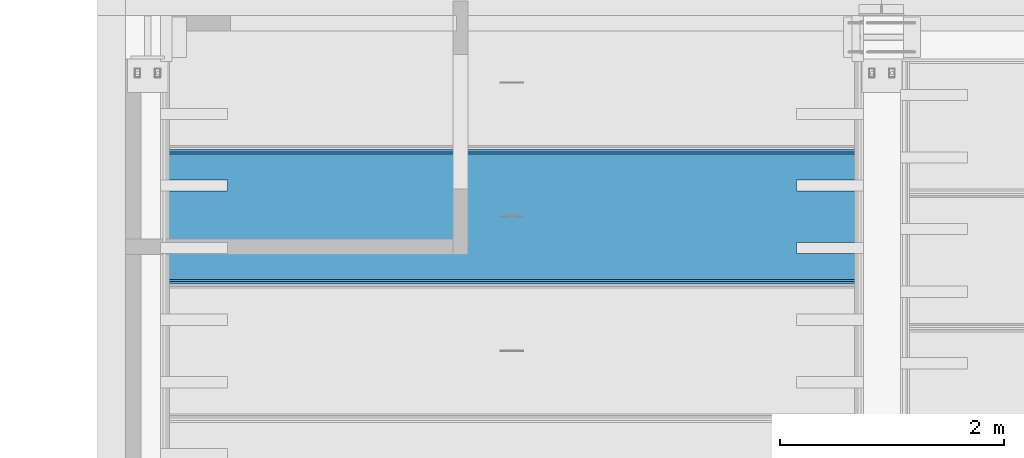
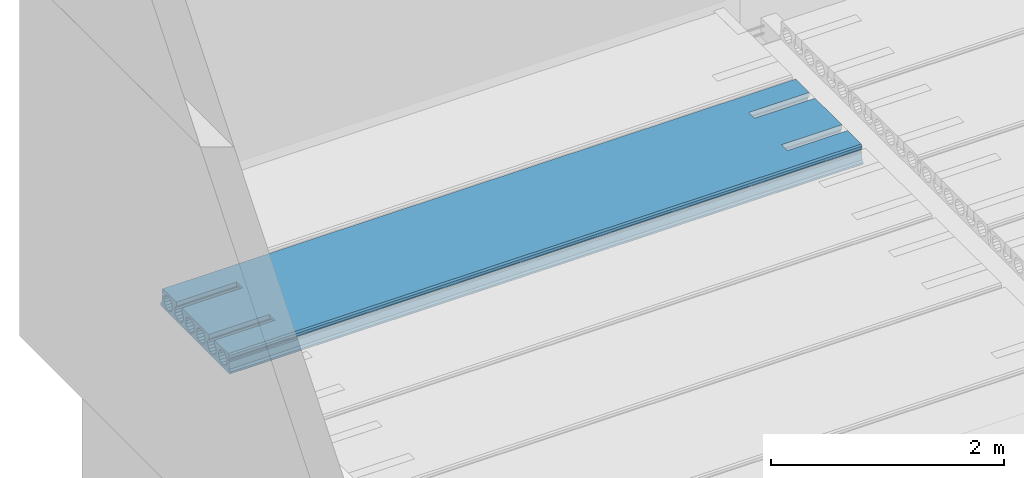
# One storey, part 133 of 230: 1 beam.
"""IFC4X3_ADD2 building model written with IfcOpenShell, lengths in millimetres."""

from ifc_helpers import new_model, si_unit, direction, origin_with_axes, place, context, subcontext, project, spatial, polygons, element, save


model = new_model("IFC4X3_ADD2")

# Units and contexts
model_context = context("Model", 3, precision=1e-05, world=origin_with_axes(), true_north=direction((0.0, 1.0)))
body_context = subcontext(model_context, "Body", "Model", "MODEL_VIEW")
ifc_project = project(units=[si_unit("LENGTHUNIT", "METRE", prefix="MILLI"), si_unit("AREAUNIT", "SQUARE_METRE"), si_unit("VOLUMEUNIT", "CUBIC_METRE"), si_unit("PLANEANGLEUNIT", "RADIAN"), si_unit("TIMEUNIT", "SECOND"), si_unit("MASSUNIT", "GRAM")], contexts=[model_context])

# Site, building, storey
site_placement = place(None, origin_with_axes())
site = spatial("IfcSite", under=ifc_project, at=site_placement, Name="Site", CompositionType="ELEMENT")
building_placement = place(site_placement, origin_with_axes())
building = spatial("IfcBuilding", under=site, at=building_placement, Name="IFC Building Story")
storey_placement = place(building_placement, origin_with_axes())
storey = spatial("IfcBuildingStorey", under=building, at=storey_placement, Name="ETAGE 00 (0)", Elevation=0.0)

# Beam
beam_placement = place(storey_placement, origin_with_axes())
element("IfcBeam", 1, at=beam_placement, inside=storey, Name="HOLLOWCORE SLAB", ObjectType="EB_SP200", context=body_context, shape_type="Tessellation", body=[
    polygons([(33516.189, 25339.0009155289, 3999.9999909), (33516.189, 24161.0009155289, 3999.9999909), (33516.189, 24150.0009155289, 4012.9999909), (33516.189, 24150.0009155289, 4029.9999909), (33516.189, 24170.0009155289, 4044.9999909), (33516.189, 24171.45092773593, 4119.9999909), (33516.189, 24178.98353700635, 4128.676139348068), (33516.189, 24181.84084554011, 4139.805000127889), (33516.189, 24179.41955194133, 4151.036789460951), (33516.189, 24172.23089599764, 4159.9999909), (33516.189, 24172.71221169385, 4185.002769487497), (33516.189, 24188.0009155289, 4199.9999909), (33516.189, 24420.0009155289, 4199.9999909), (33516.189, 24420.0009155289, 4155.806158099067), (33516.189, 24415.3214603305, 4152.679446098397), (33516.189, 24399.17189035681, 4128.509906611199), (33516.189, 24393.5009155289, 4099.9999909), (33516.189, 24399.17189035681, 4071.490075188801), (33516.189, 24415.3214603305, 4047.320535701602), (33516.189, 24439.4909998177, 4031.170965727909), (33516.189, 24468.0009155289, 4025.4999909), (33516.189, 24496.51083124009, 4031.170965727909), (33516.189, 24520.68037072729, 4047.320535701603), (33516.189, 24536.82994070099, 4071.490075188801), (33516.189, 24542.50091552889, 4099.9999909), (33516.189, 24536.82994070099, 4128.509906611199), (33516.189, 24520.6803707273, 4152.679446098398), (33516.189, 24520.0009155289, 4153.133443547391), (33516.189, 24520.0009155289, 4199.9999909), (33516.189, 24980.0009155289, 4199.9999909), (33516.189, 24980.0009155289, 4153.133443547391), (33516.189, 24979.3214603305, 4152.679446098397), (33516.189, 24963.17189035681, 4128.509906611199), (33516.189, 24957.5009155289, 4099.9999909), (33516.189, 24963.1718903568, 4071.490075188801), (33516.189, 24979.3214603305, 4047.320535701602), (33516.189, 25003.4909998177, 4031.170965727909), (33516.189, 25032.0009155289, 4025.4999909), (33516.189, 25060.51083124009, 4031.170965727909), (33516.189, 25084.68037072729, 4047.320535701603), (33516.189, 25100.82994070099, 4071.490075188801), (33516.189, 25106.5009155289, 4099.9999909), (33516.189, 25100.82994070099, 4128.509906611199), (33516.189, 25084.6803707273, 4152.679446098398), (33516.189, 25080.0009155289, 4155.806158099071), (33516.189, 25080.0009155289, 4199.9999909), (33516.189, 25312.0009155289, 4199.9999909), (33516.189, 25327.28961936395, 4185.002769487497), (33516.189, 25327.77093506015, 4159.9999909), (33516.189, 25320.58227911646, 4151.036789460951), (33516.189, 25318.16098551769, 4139.805000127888), (33516.189, 25321.01829405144, 4128.676139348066), (33516.189, 25328.55090332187, 4119.9999909), (33516.189, 25330.0009155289, 4044.9999909), (33516.189, 25350.0009155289, 4029.9999909), (33516.189, 25350.0009155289, 4012.9999909), (33516.189, 25272.6803707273, 4152.679446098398), (33516.189, 25248.5108312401, 4168.829016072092), (33516.189, 25220.0009155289, 4174.4999909), (33516.189, 25191.4909998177, 4168.829016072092), (33516.189, 25167.3214603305, 4152.679446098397), (33516.189, 25151.17189035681, 4128.509906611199), (33516.189, 25145.5009155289, 4099.9999909), (33516.189, 25151.1718903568, 4071.490075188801), (33516.189, 25167.3214603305, 4047.320535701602), (33516.189, 25191.4909998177, 4031.170965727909), (33516.189, 25220.0009155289, 4025.4999909), (33516.189, 25248.51083124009, 4031.170965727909), (33516.189, 25272.68037072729, 4047.320535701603), (33516.189, 25288.82994070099, 4071.490075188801), (33516.189, 25294.5009155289, 4099.9999909), (33516.189, 25288.82994070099, 4128.509906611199), (33516.189, 24896.6803707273, 4152.679446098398), (33516.189, 24872.5108312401, 4168.829016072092), (33516.189, 24844.00091552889, 4174.4999909), (33516.189, 24815.4909998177, 4168.829016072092), (33516.189, 24791.3214603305, 4152.679446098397), (33516.189, 24775.1718903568, 4128.509906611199), (33516.189, 24769.5009155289, 4099.9999909), (33516.189, 24775.1718903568, 4071.490075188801), (33516.189, 24791.3214603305, 4047.320535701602), (33516.189, 24815.4909998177, 4031.170965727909), (33516.189, 24844.00091552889, 4025.4999909), (33516.189, 24872.51083124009, 4031.170965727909), (33516.189, 24896.6803707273, 4047.320535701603), (33516.189, 24912.82994070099, 4071.490075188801), (33516.189, 24918.5009155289, 4099.9999909), (33516.189, 24912.82994070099, 4128.509906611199), (33516.189, 24708.68037072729, 4152.679446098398), (33516.189, 24684.5108312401, 4168.829016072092), (33516.189, 24656.0009155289, 4174.4999909), (33516.189, 24627.4909998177, 4168.829016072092), (33516.189, 24603.3214603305, 4152.679446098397), (33516.189, 24587.17189035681, 4128.509906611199), (33516.189, 24581.50091552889, 4099.9999909), (33516.189, 24587.17189035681, 4071.490075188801), (33516.189, 24603.3214603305, 4047.320535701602), (33516.189, 24627.4909998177, 4031.170965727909), (33516.189, 24656.0009155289, 4025.4999909), (33516.189, 24684.5108312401, 4031.170965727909), (33516.189, 24708.68037072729, 4047.320535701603), (33516.189, 24724.82994070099, 4071.490075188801), (33516.189, 24730.5009155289, 4099.9999909), (33516.189, 24724.82994070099, 4128.509906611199), (33516.189, 24332.68037072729, 4152.679446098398), (33516.189, 24308.5108312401, 4168.829016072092), (33516.189, 24280.0009155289, 4174.4999909), (33516.189, 24251.4909998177, 4168.829016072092), (33516.189, 24227.3214603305, 4152.679446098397), (33516.189, 24211.1718903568, 4128.509906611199), (33516.189, 24205.5009155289, 4099.9999909), (33516.189, 24211.1718903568, 4071.490075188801), (33516.189, 24227.3214603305, 4047.320535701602), (33516.189, 24251.4909998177, 4031.170965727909), (33516.189, 24280.0009155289, 4025.4999909), (33516.189, 24308.5108312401, 4031.170965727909), (33516.189, 24332.68037072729, 4047.320535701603), (33516.189, 24348.82994070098, 4071.490075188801), (33516.189, 24354.5009155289, 4099.9999909), (33516.189, 24348.82994070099, 4128.509906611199), (39801.189, 25339.0009155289, 3999.9999909), (39801.189, 25350.0009155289, 4012.9999909), (39801.189, 25350.0009155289, 4029.9999909), (39801.189, 25330.0009155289, 4044.9999909), (39801.189, 25328.55090332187, 4119.9999909), (39801.189, 25321.01829405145, 4128.676139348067), (39801.189, 25318.16098551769, 4139.805000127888), (39801.189, 25320.58227911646, 4151.036789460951), (39801.189, 25327.77093506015, 4159.9999909), (39801.189, 25327.28961936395, 4185.002769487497), (39801.189, 25312.0009155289, 4199.9999909), (39801.189, 25080.0009155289, 4199.9999909), (39801.189, 25080.0009155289, 4155.806158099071), (39801.189, 25084.68037072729, 4152.679446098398), (39801.189, 25100.82994070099, 4128.509906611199), (39801.189, 25106.5009155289, 4099.9999909), (39801.189, 25100.82994070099, 4071.490075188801), (39801.189, 25084.68037072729, 4047.320535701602), (39801.189, 25060.5108312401, 4031.170965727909), (39801.189, 25032.0009155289, 4025.4999909), (39801.189, 25003.4909998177, 4031.170965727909), (39801.189, 24979.3214603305, 4047.320535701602), (39801.189, 24963.17189035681, 4071.490075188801), (39801.189, 24957.5009155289, 4099.9999909), (39801.189, 24963.17189035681, 4128.509906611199), (39801.189, 24979.3214603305, 4152.679446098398), (39801.189, 24980.0009155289, 4153.133443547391), (39801.189, 24980.0009155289, 4199.9999909), (39801.189, 24520.0009155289, 4199.9999909), (39801.189, 24520.0009155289, 4153.133443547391), (39801.189, 24520.6803707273, 4152.679446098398), (39801.189, 24536.82994070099, 4128.509906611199), (39801.189, 24542.50091552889, 4099.9999909), (39801.189, 24536.82994070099, 4071.490075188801), (39801.189, 24520.6803707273, 4047.320535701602), (39801.189, 24496.51083124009, 4031.170965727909), (39801.189, 24468.0009155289, 4025.4999909), (39801.189, 24439.4909998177, 4031.170965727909), (39801.189, 24415.3214603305, 4047.320535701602), (39801.189, 24399.17189035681, 4071.490075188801), (39801.189, 24393.5009155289, 4099.9999909), (39801.189, 24399.17189035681, 4128.509906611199), (39801.189, 24415.3214603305, 4152.679446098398), (39801.189, 24420.0009155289, 4155.806158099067), (39801.189, 24420.0009155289, 4199.9999909), (39801.189, 24188.0009155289, 4199.9999909), (39801.189, 24172.71221169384, 4185.002769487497), (39801.189, 24172.23089599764, 4159.9999909), (39801.189, 24179.41955194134, 4151.036789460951), (39801.189, 24181.84084554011, 4139.805000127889), (39801.189, 24178.98353700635, 4128.676139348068), (39801.189, 24171.45092773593, 4119.9999909), (39801.189, 24170.0009155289, 4044.9999909), (39801.189, 24150.0009155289, 4029.9999909), (39801.189, 24150.0009155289, 4012.9999909), (39801.189, 24161.0009155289, 3999.9999909), (39801.189, 25272.68037072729, 4152.679446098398), (39801.189, 25288.82994070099, 4128.509906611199), (39801.189, 25294.5009155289, 4099.9999909), (39801.189, 25288.82994070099, 4071.490075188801), (39801.189, 25272.68037072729, 4047.320535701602), (39801.189, 25248.5108312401, 4031.170965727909), (39801.189, 25220.0009155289, 4025.4999909), (39801.189, 25191.4909998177, 4031.170965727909), (39801.189, 25167.3214603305, 4047.320535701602), (39801.189, 25151.17189035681, 4071.490075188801), (39801.189, 25145.5009155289, 4099.9999909), (39801.189, 25151.17189035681, 4128.509906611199), (39801.189, 25167.3214603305, 4152.679446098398), (39801.189, 25191.4909998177, 4168.829016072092), (39801.189, 25220.0009155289, 4174.4999909), (39801.189, 25248.5108312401, 4168.829016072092), (39801.189, 24896.6803707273, 4152.679446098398), (39801.189, 24912.82994070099, 4128.509906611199), (39801.189, 24918.5009155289, 4099.9999909), (39801.189, 24912.82994070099, 4071.490075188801), (39801.189, 24896.6803707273, 4047.320535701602), (39801.189, 24872.5108312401, 4031.170965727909), (39801.189, 24844.00091552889, 4025.4999909), (39801.189, 24815.4909998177, 4031.170965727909), (39801.189, 24791.3214603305, 4047.320535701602), (39801.189, 24775.1718903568, 4071.490075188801), (39801.189, 24769.5009155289, 4099.9999909), (39801.189, 24775.1718903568, 4128.509906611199), (39801.189, 24791.3214603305, 4152.679446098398), (39801.189, 24815.4909998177, 4168.829016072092), (39801.189, 24844.00091552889, 4174.4999909), (39801.189, 24872.5108312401, 4168.829016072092), (39801.189, 24708.6803707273, 4152.679446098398), (39801.189, 24724.82994070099, 4128.509906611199), (39801.189, 24730.5009155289, 4099.9999909), (39801.189, 24724.82994070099, 4071.490075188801), (39801.189, 24708.6803707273, 4047.320535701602), (39801.189, 24684.5108312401, 4031.170965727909), (39801.189, 24656.0009155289, 4025.4999909), (39801.189, 24627.4909998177, 4031.170965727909), (39801.189, 24603.3214603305, 4047.320535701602), (39801.189, 24587.17189035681, 4071.490075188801), (39801.189, 24581.50091552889, 4099.9999909), (39801.189, 24587.17189035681, 4128.509906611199), (39801.189, 24603.3214603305, 4152.679446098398), (39801.189, 24627.4909998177, 4168.829016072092), (39801.189, 24656.0009155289, 4174.4999909), (39801.189, 24684.5108312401, 4168.829016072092), (39801.189, 24332.68037072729, 4152.679446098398), (39801.189, 24348.82994070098, 4128.509906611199), (39801.189, 24354.5009155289, 4099.9999909), (39801.189, 24348.82994070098, 4071.490075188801), (39801.189, 24332.68037072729, 4047.320535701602), (39801.189, 24308.5108312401, 4031.170965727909), (39801.189, 24280.0009155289, 4025.4999909), (39801.189, 24251.4909998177, 4031.170965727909), (39801.189, 24227.3214603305, 4047.320535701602), (39801.189, 24211.1718903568, 4071.490075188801), (39801.189, 24205.5009155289, 4099.9999909), (39801.189, 24211.1718903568, 4128.509906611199), (39801.189, 24227.3214603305, 4152.679446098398), (39801.189, 24251.4909998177, 4168.829016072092), (39801.189, 24280.0009155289, 4174.4999909), (39801.189, 24308.5108312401, 4168.829016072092), (34116.189, 25080.0009155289, 4199.9999909), (34116.189, 24980.0009155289, 4199.9999909), (34116.189, 24520.0009155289, 4199.9999909), (34116.189, 24420.0009155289, 4199.9999909), (39201.189, 24420.0009155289, 4199.9999909), (39201.189, 24520.0009155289, 4199.9999909), (39201.189, 24980.0009155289, 4199.9999909), (39201.189, 25080.0009155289, 4199.9999909), (39201.189, 25080.0009155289, 4155.806158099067), (39201.189, 25060.5108312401, 4168.829016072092), (34116.189, 25060.5108312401, 4168.82901607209), (34116.189, 25080.0009155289, 4155.806158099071), (39201.189, 25032.0009155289, 4174.4999909), (34116.189, 25032.0009155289, 4174.4999909), (39201.189, 25003.4909998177, 4168.829016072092), (34116.189, 25003.4909998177, 4168.829016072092), (34116.189, 24980.0009155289, 4153.133443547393), (39201.189, 24980.0009155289, 4153.133443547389), (39201.189, 24520.0009155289, 4153.133443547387), (39201.189, 24496.51083124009, 4168.829016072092), (34116.189, 24496.5108312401, 4168.829016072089), (34116.189, 24520.0009155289, 4153.13344354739), (39201.189, 24468.0009155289, 4174.4999909), (34116.189, 24468.0009155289, 4174.4999909), (39201.189, 24439.4909998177, 4168.829016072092), (34116.189, 24439.4909998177, 4168.829016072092), (34116.189, 24420.0009155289, 4155.806158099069), (39201.189, 24420.0009155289, 4155.806158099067), (34116.189, 24980.0009155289, 4199.999996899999), (34116.189, 25080.0009155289, 4199.999996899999), (39201.189, 25080.0009155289, 4199.999996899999), (39201.189, 24980.0009155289, 4199.999996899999), (39201.189, 24520.0009155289, 4199.999996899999), (39201.189, 24420.0009155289, 4199.999996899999), (34116.189, 24420.0009155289, 4199.999996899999), (34116.189, 24520.0009155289, 4199.999996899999)], [[[27, 28, 29]], [[92, 93, 26]], [[92, 26, 27]], [[92, 27, 29]], [[29, 91, 92]], [[91, 29, 30]], [[30, 90, 91]], [[30, 89, 90]], [[94, 95, 25]], [[94, 25, 26]], [[26, 93, 94]], [[96, 97, 24]], [[24, 25, 95]], [[24, 95, 96]], [[97, 23, 24]], [[76, 77, 104]], [[76, 104, 89]], [[89, 75, 76]], [[75, 89, 30]], [[30, 74, 75]], [[30, 73, 74]], [[78, 79, 103]], [[78, 103, 104]], [[104, 77, 78]], [[80, 81, 102]], [[102, 103, 79]], [[102, 79, 80]], [[81, 101, 102]], [[88, 73, 30]], [[88, 30, 31]], [[33, 34, 87]], [[33, 87, 88]], [[88, 32, 33]], [[88, 31, 32]], [[35, 36, 86]], [[86, 87, 34]], [[86, 34, 35]], [[36, 85, 86]], [[44, 45, 46]], [[60, 61, 43]], [[60, 43, 44]], [[60, 44, 46]], [[46, 59, 60]], [[46, 47, 59]], [[47, 58, 59]], [[47, 57, 58]], [[62, 63, 42]], [[62, 42, 43]], [[43, 61, 62]], [[64, 65, 41]], [[41, 42, 63]], [[41, 63, 64]], [[50, 51, 72]], [[50, 72, 57]], [[57, 47, 48]], [[57, 48, 49]], [[57, 49, 50]], [[52, 53, 71]], [[52, 71, 72]], [[72, 51, 52]], [[53, 54, 70]], [[53, 70, 71]], [[54, 55, 56]], [[54, 56, 1]], [[1, 69, 70]], [[1, 70, 54]], [[1, 68, 69]], [[1, 67, 68]], [[1, 66, 67]], [[1, 40, 66]], [[40, 41, 65]], [[40, 65, 66]], [[1, 39, 40]], [[1, 38, 39]], [[1, 84, 38]], [[84, 37, 38]], [[84, 85, 36]], [[84, 36, 37]], [[1, 83, 84]], [[1, 100, 83]], [[100, 82, 83]], [[100, 101, 81]], [[100, 81, 82]], [[1, 99, 100]], [[1, 22, 99]], [[22, 98, 99]], [[22, 23, 97]], [[22, 97, 98]], [[1, 21, 22]], [[1, 2, 21]], [[2, 20, 21]], [[2, 19, 20]], [[9, 10, 11]], [[9, 11, 12]], [[109, 110, 8]], [[109, 8, 9]], [[9, 12, 108]], [[9, 108, 109]], [[12, 107, 108]], [[107, 12, 13]], [[13, 106, 107]], [[13, 105, 106]], [[110, 7, 8]], [[112, 113, 5]], [[5, 6, 111]], [[5, 111, 112]], [[6, 7, 110]], [[6, 110, 111]], [[116, 117, 18]], [[116, 18, 19]], [[19, 115, 116]], [[19, 2, 115]], [[2, 114, 115]], [[2, 5, 113]], [[2, 113, 114]], [[2, 3, 4]], [[2, 4, 5]], [[118, 119, 17]], [[118, 17, 18]], [[18, 117, 118]], [[120, 105, 16]], [[16, 17, 119]], [[16, 119, 120]], [[105, 13, 15]], [[105, 15, 16]], [[13, 14, 15]], [[173, 174, 175]], [[173, 175, 176]], [[128, 129, 130]], [[128, 130, 131]], [[128, 131, 177]], [[177, 178, 127]], [[177, 127, 128]], [[178, 126, 127]], [[180, 181, 124]], [[124, 125, 179]], [[124, 179, 180]], [[125, 126, 178]], [[125, 178, 179]], [[192, 177, 131]], [[131, 191, 192]], [[191, 131, 132]], [[132, 190, 191]], [[132, 189, 190]], [[132, 133, 188]], [[132, 188, 189]], [[135, 136, 187]], [[135, 187, 188]], [[188, 134, 135]], [[188, 133, 134]], [[137, 138, 186]], [[186, 187, 136]], [[186, 136, 137]], [[138, 139, 185]], [[138, 185, 186]], [[139, 184, 185]], [[146, 147, 148]], [[148, 193, 145]], [[148, 145, 146]], [[194, 195, 144]], [[194, 144, 145]], [[145, 193, 194]], [[196, 197, 143]], [[143, 144, 195]], [[143, 195, 196]], [[197, 142, 143]], [[208, 193, 148]], [[148, 207, 208]], [[148, 209, 207]], [[209, 206, 207]], [[209, 205, 206]], [[209, 204, 205]], [[210, 211, 203]], [[210, 203, 204]], [[204, 209, 210]], [[212, 213, 202]], [[202, 203, 211]], [[202, 211, 212]], [[213, 201, 202]], [[224, 209, 148]], [[148, 223, 224]], [[148, 149, 223]], [[149, 222, 223]], [[149, 221, 222]], [[149, 150, 220]], [[149, 220, 221]], [[152, 153, 219]], [[152, 219, 220]], [[220, 151, 152]], [[220, 150, 151]], [[154, 155, 218]], [[218, 219, 153]], [[218, 153, 154]], [[155, 217, 218]], [[163, 164, 165]], [[165, 225, 162]], [[165, 162, 163]], [[226, 227, 161]], [[226, 161, 162]], [[162, 225, 226]], [[228, 229, 160]], [[160, 161, 227]], [[160, 227, 228]], [[235, 236, 171]], [[235, 171, 172]], [[172, 173, 234]], [[172, 234, 235]], [[173, 176, 233]], [[173, 233, 234]], [[176, 232, 233]], [[176, 231, 232]], [[176, 230, 231]], [[176, 159, 230]], [[159, 160, 229]], [[159, 229, 230]], [[176, 158, 159]], [[176, 157, 158]], [[176, 216, 157]], [[216, 156, 157]], [[216, 217, 155]], [[216, 155, 156]], [[176, 215, 216]], [[176, 200, 215]], [[200, 214, 215]], [[200, 201, 213]], [[200, 213, 214]], [[176, 199, 200]], [[176, 141, 199]], [[141, 198, 199]], [[141, 142, 197]], [[141, 197, 198]], [[176, 140, 141]], [[176, 183, 140]], [[183, 184, 139]], [[183, 139, 140]], [[176, 121, 183]], [[121, 182, 183]], [[121, 124, 181]], [[121, 181, 182]], [[121, 122, 123]], [[121, 123, 124]], [[236, 170, 171]], [[240, 225, 165]], [[165, 239, 240]], [[165, 166, 239]], [[166, 238, 239]], [[166, 169, 237]], [[166, 237, 238]], [[169, 170, 236]], [[169, 236, 237]], [[166, 167, 168]], [[166, 168, 169]], [[2, 1, 121, 176]], [[3, 2, 176, 175]], [[4, 3, 175, 174]], [[5, 4, 174, 173]], [[6, 5, 173, 172]], [[7, 6, 172, 171]], [[8, 7, 171, 170]], [[9, 8, 170, 169]], [[10, 9, 169, 168]], [[11, 10, 168, 167]], [[12, 11, 167, 166]], [[242, 30, 29]], [[242, 29, 243]], [[244, 13, 12]], [[244, 12, 166]], [[166, 243, 244]], [[242, 243, 166]], [[166, 241, 242]], [[246, 149, 148]], [[246, 148, 247]], [[248, 132, 131]], [[248, 131, 47]], [[47, 247, 248]], [[246, 247, 47]], [[47, 245, 246]], [[47, 241, 166]], [[47, 166, 245]], [[166, 165, 245]], [[47, 46, 241]], [[48, 47, 131, 130]], [[49, 48, 130, 129]], [[50, 49, 129, 128]], [[51, 50, 128, 127]], [[52, 51, 127, 126]], [[53, 52, 126, 125]], [[54, 53, 125, 124]], [[55, 54, 124, 123]], [[56, 55, 123, 122]], [[1, 56, 122, 121]], [[58, 57, 177, 192]], [[59, 58, 192, 191]], [[60, 59, 191, 190]], [[61, 60, 190, 189]], [[62, 61, 189, 188]], [[63, 62, 188, 187]], [[64, 63, 187, 186]], [[65, 64, 186, 185]], [[66, 65, 185, 184]], [[67, 66, 184, 183]], [[68, 67, 183, 182]], [[69, 68, 182, 181]], [[70, 69, 181, 180]], [[71, 70, 180, 179]], [[72, 71, 179, 178]], [[57, 72, 178, 177]], [[252, 45, 44]], [[252, 44, 249]], [[249, 250, 251]], [[249, 251, 252]], [[44, 134, 249]], [[134, 133, 249]], [[251, 250, 253, 254]], [[254, 253, 255, 256]], [[258, 147, 146]], [[258, 146, 257]], [[257, 256, 255]], [[257, 255, 258]], [[146, 32, 257]], [[32, 31, 257]], [[33, 32, 146, 145]], [[34, 33, 145, 144]], [[35, 34, 144, 143]], [[36, 35, 143, 142]], [[37, 36, 142, 141]], [[38, 37, 141, 140]], [[39, 38, 140, 139]], [[40, 39, 139, 138]], [[41, 40, 138, 137]], [[42, 41, 137, 136]], [[43, 42, 136, 135]], [[44, 43, 135, 134]], [[74, 73, 193, 208]], [[75, 74, 208, 207]], [[76, 75, 207, 206]], [[77, 76, 206, 205]], [[78, 77, 205, 204]], [[79, 78, 204, 203]], [[80, 79, 203, 202]], [[81, 80, 202, 201]], [[82, 81, 201, 200]], [[83, 82, 200, 199]], [[84, 83, 199, 198]], [[85, 84, 198, 197]], [[86, 85, 197, 196]], [[87, 86, 196, 195]], [[88, 87, 195, 194]], [[73, 88, 194, 193]], [[90, 89, 209, 224]], [[91, 90, 224, 223]], [[92, 91, 223, 222]], [[93, 92, 222, 221]], [[94, 93, 221, 220]], [[95, 94, 220, 219]], [[96, 95, 219, 218]], [[97, 96, 218, 217]], [[98, 97, 217, 216]], [[99, 98, 216, 215]], [[100, 99, 215, 214]], [[101, 100, 214, 213]], [[102, 101, 213, 212]], [[103, 102, 212, 211]], [[104, 103, 211, 210]], [[89, 104, 210, 209]], [[262, 28, 27]], [[262, 27, 259]], [[259, 260, 261]], [[259, 261, 262]], [[27, 151, 259]], [[151, 150, 259]], [[260, 263, 264, 261]], [[263, 265, 266, 264]], [[268, 164, 163]], [[268, 163, 267]], [[267, 266, 265]], [[267, 265, 268]], [[163, 15, 267]], [[15, 14, 267]], [[16, 15, 163, 162]], [[17, 16, 162, 161]], [[18, 17, 161, 160]], [[19, 18, 160, 159]], [[20, 19, 159, 158]], [[21, 20, 158, 157]], [[22, 21, 157, 156]], [[23, 22, 156, 155]], [[24, 23, 155, 154]], [[25, 24, 154, 153]], [[26, 25, 153, 152]], [[27, 26, 152, 151]], [[106, 105, 225, 240]], [[107, 106, 240, 239]], [[108, 107, 239, 238]], [[109, 108, 238, 237]], [[110, 109, 237, 236]], [[111, 110, 236, 235]], [[112, 111, 235, 234]], [[113, 112, 234, 233]], [[114, 113, 233, 232]], [[115, 114, 232, 231]], [[116, 115, 231, 230]], [[117, 116, 230, 229]], [[118, 117, 229, 228]], [[119, 118, 228, 227]], [[120, 119, 227, 226]], [[105, 120, 226, 225]], [[46, 45, 252, 241]], [[31, 30, 269, 257]], [[256, 257, 242]], [[242, 270, 254]], [[242, 254, 256]], [[270, 251, 254]], [[270, 252, 251]], [[148, 147, 258, 247]], [[133, 132, 271, 249]], [[250, 249, 248]], [[248, 253, 250]], [[248, 272, 255]], [[248, 255, 253]], [[272, 258, 255]], [[165, 164, 268, 245]], [[150, 149, 273, 259]], [[260, 259, 246]], [[246, 274, 263]], [[246, 263, 260]], [[274, 265, 263]], [[274, 268, 265]], [[262, 243, 29, 28]], [[275, 267, 14, 13]], [[266, 267, 244]], [[244, 264, 266]], [[244, 276, 261]], [[244, 261, 264]], [[276, 262, 261]]]),
])

save(model, "model.ifc")
